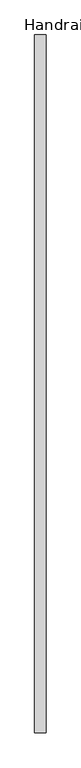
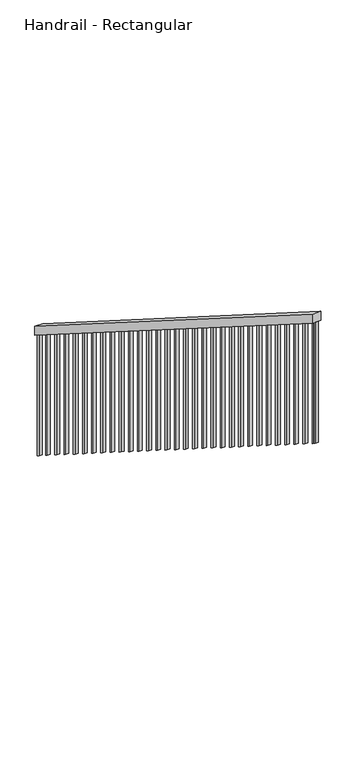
"""IFC4 building model written with IfcOpenShell, lengths in millimetres: railing geometry, Handrail - Rectangular."""

from ifc_helpers import new_model, si_unit, frame, origin, place, context, project, spatial, polyline, outline, extrude, source, transform, mapped, element, save


def handrail_rectangular_e01e2a21(model_context):
    return source(origin(), model_context, "Body", "SweptSolid", [
        extrude(outline(polyline([(29625.2325698, 914.4), (29625.2325698, 854.2661363), (26551.8305304, 2801.0532331), (26551.8305304, 2861.1870968), (29625.2325698, 914.4)])), frame((-9931.4851755, 0.0, 0.0), z_axis=(1.0, 0.0, 0.0), x_axis=(0.0, 1.0, 0.0)), (0.0, 0.0, 1.0), 50.8),
        extrude(outline(polyline([(26567.7075698, 2790.9961811), (26586.7575698, 2778.9293189), (26586.7575698, 1962.4070186), (26567.7075698, 1974.4738808), (26567.7075698, 2790.9961811)])), frame((-9915.6101755, 0.0, 0.0), z_axis=(1.0, 0.0, 0.0), x_axis=(0.0, 1.0, 0.0)), (0.0, 0.0, 1.0), 19.05),
        extrude(outline(polyline([(26669.3075698, 2726.6396256), (26688.3575698, 2714.5727634), (26688.3575698, 1898.0504631), (26669.3075698, 1910.1173253), (26669.3075698, 2726.6396256)])), frame((-9915.6101755, 0.0, 0.0), z_axis=(1.0, 0.0, 0.0), x_axis=(0.0, 1.0, 0.0)), (0.0, 0.0, 1.0), 19.05),
        extrude(outline(polyline([(26770.9075698, 2662.28307), (26789.9575698, 2650.2162079), (26789.9575698, 1833.6939076), (26770.9075698, 1845.7607697), (26770.9075698, 2662.28307)])), frame((-9915.6101755, 0.0, 0.0), z_axis=(1.0, 0.0, 0.0), x_axis=(0.0, 1.0, 0.0)), (0.0, 0.0, 1.0), 19.05),
        extrude(outline(polyline([(26872.5075698, 2597.9265145), (26891.5575698, 2585.8596523), (26891.5575698, 1769.337352), (26872.5075698, 1781.4042142), (26872.5075698, 2597.9265145)])), frame((-9915.6101755, 0.0, 0.0), z_axis=(1.0, 0.0, 0.0), x_axis=(0.0, 1.0, 0.0)), (0.0, 0.0, 1.0), 19.05),
        extrude(outline(polyline([(26974.1075698, 2533.569959), (26993.1575698, 2521.5030968), (26993.1575698, 1704.9807965), (26974.1075698, 1717.0476587), (26974.1075698, 2533.569959)])), frame((-9915.6101755, 0.0, 0.0), z_axis=(1.0, 0.0, 0.0), x_axis=(0.0, 1.0, 0.0)), (0.0, 0.0, 1.0), 19.05),
        extrude(outline(polyline([(27075.7075698, 2469.2134034), (27094.7575698, 2457.1465413), (27094.7575698, 1640.624241), (27075.7075698, 1652.6911031), (27075.7075698, 2469.2134034)])), frame((-9915.6101755, 0.0, 0.0), z_axis=(1.0, 0.0, 0.0), x_axis=(0.0, 1.0, 0.0)), (0.0, 0.0, 1.0), 19.05),
        extrude(outline(polyline([(27177.3075698, 2404.8568479), (27196.3575698, 2392.7899857), (27196.3575698, 1576.2676854), (27177.3075698, 1588.3345476), (27177.3075698, 2404.8568479)])), frame((-9915.6101755, 0.0, 0.0), z_axis=(1.0, 0.0, 0.0), x_axis=(0.0, 1.0, 0.0)), (0.0, 0.0, 1.0), 19.05),
        extrude(outline(polyline([(27278.9075698, 2340.5002924), (27297.9575698, 2328.4334302), (27297.9575698, 1511.9111299), (27278.9075698, 1523.9779921), (27278.9075698, 2340.5002924)])), frame((-9915.6101755, 0.0, 0.0), z_axis=(1.0, 0.0, 0.0), x_axis=(0.0, 1.0, 0.0)), (0.0, 0.0, 1.0), 19.05),
        extrude(outline(polyline([(27380.5075698, 2276.1437368), (27399.5575698, 2264.0768746), (27399.5575698, 1447.5545743), (27380.5075698, 1459.6214365), (27380.5075698, 2276.1437368)])), frame((-9915.6101755, 0.0, 0.0), z_axis=(1.0, 0.0, 0.0), x_axis=(0.0, 1.0, 0.0)), (0.0, 0.0, 1.0), 19.05),
        extrude(outline(polyline([(27482.1075698, 2211.7871813), (27501.1575698, 2199.7203191), (27501.1575698, 1383.1980188), (27482.1075698, 1395.264881), (27482.1075698, 2211.7871813)])), frame((-9915.6101755, 0.0, 0.0), z_axis=(1.0, 0.0, 0.0), x_axis=(0.0, 1.0, 0.0)), (0.0, 0.0, 1.0), 19.05),
        extrude(outline(polyline([(27583.7075698, 2147.4306257), (27602.7575698, 2135.3637636), (27602.7575698, 1318.8414633), (27583.7075698, 1330.9083254), (27583.7075698, 2147.4306257)])), frame((-9915.6101755, 0.0, 0.0), z_axis=(1.0, 0.0, 0.0), x_axis=(0.0, 1.0, 0.0)), (0.0, 0.0, 1.0), 19.05),
        extrude(outline(polyline([(27685.3075698, 2083.0740702), (27704.3575698, 2071.007208), (27704.3575698, 1254.4849077), (27685.3075698, 1266.5517699), (27685.3075698, 2083.0740702)])), frame((-9915.6101755, 0.0, 0.0), z_axis=(1.0, 0.0, 0.0), x_axis=(0.0, 1.0, 0.0)), (0.0, 0.0, 1.0), 19.05),
        extrude(outline(polyline([(27786.9075698, 2018.7175147), (27805.9575698, 2006.6506525), (27805.9575698, 1190.1283522), (27786.9075698, 1202.1952144), (27786.9075698, 2018.7175147)])), frame((-9915.6101755, 0.0, 0.0), z_axis=(1.0, 0.0, 0.0), x_axis=(0.0, 1.0, 0.0)), (0.0, 0.0, 1.0), 19.05),
        extrude(outline(polyline([(27888.5075698, 1954.3609591), (27907.5575698, 1942.294097), (27907.5575698, 1125.7717967), (27888.5075698, 1137.8386588), (27888.5075698, 1954.3609591)])), frame((-9915.6101755, 0.0, 0.0), z_axis=(1.0, 0.0, 0.0), x_axis=(0.0, 1.0, 0.0)), (0.0, 0.0, 1.0), 19.05),
        extrude(outline(polyline([(27990.1075698, 1890.0044036), (28009.1575698, 1877.9375414), (28009.1575698, 1061.4152411), (27990.1075698, 1073.4821033), (27990.1075698, 1890.0044036)])), frame((-9915.6101755, 0.0, 0.0), z_axis=(1.0, 0.0, 0.0), x_axis=(0.0, 1.0, 0.0)), (0.0, 0.0, 1.0), 19.05),
        extrude(outline(polyline([(28091.7075698, 1825.6478481), (28110.7575698, 1813.5809859), (28110.7575698, 997.0586856), (28091.7075698, 1009.1255478), (28091.7075698, 1825.6478481)])), frame((-9915.6101755, 0.0, 0.0), z_axis=(1.0, 0.0, 0.0), x_axis=(0.0, 1.0, 0.0)), (0.0, 0.0, 1.0), 19.05),
        extrude(outline(polyline([(28193.3075698, 1761.2912925), (28212.3575698, 1749.2244304), (28212.3575698, 932.7021301), (28193.3075698, 944.7689922), (28193.3075698, 1761.2912925)])), frame((-9915.6101755, 0.0, 0.0), z_axis=(1.0, 0.0, 0.0), x_axis=(0.0, 1.0, 0.0)), (0.0, 0.0, 1.0), 19.05),
        extrude(outline(polyline([(28294.9075698, 1696.934737), (28313.9575698, 1684.8678748), (28313.9575698, 868.3455745), (28294.9075698, 880.4124367), (28294.9075698, 1696.934737)])), frame((-9915.6101755, 0.0, 0.0), z_axis=(1.0, 0.0, 0.0), x_axis=(0.0, 1.0, 0.0)), (0.0, 0.0, 1.0), 19.05),
        extrude(outline(polyline([(28396.5075698, 1632.5781815), (28415.5575698, 1620.5113193), (28415.5575698, 803.989019), (28396.5075698, 816.0558812), (28396.5075698, 1632.5781815)])), frame((-9915.6101755, 0.0, 0.0), z_axis=(1.0, 0.0, 0.0), x_axis=(0.0, 1.0, 0.0)), (0.0, 0.0, 1.0), 19.05),
        extrude(outline(polyline([(28498.1075698, 1568.2216259), (28517.1575698, 1556.1547638), (28517.1575698, 739.6324635), (28498.1075698, 751.6993256), (28498.1075698, 1568.2216259)])), frame((-9915.6101755, 0.0, 0.0), z_axis=(1.0, 0.0, 0.0), x_axis=(0.0, 1.0, 0.0)), (0.0, 0.0, 1.0), 19.05),
        extrude(outline(polyline([(28599.7075698, 1503.8650704), (28618.7575698, 1491.7982082), (28618.7575698, 675.2759079), (28599.7075698, 687.3427701), (28599.7075698, 1503.8650704)])), frame((-9915.6101755, 0.0, 0.0), z_axis=(1.0, 0.0, 0.0), x_axis=(0.0, 1.0, 0.0)), (0.0, 0.0, 1.0), 19.05),
        extrude(outline(polyline([(28701.3075698, 1439.5085149), (28720.3575698, 1427.4416527), (28720.3575698, 610.9193524), (28701.3075698, 622.9862146), (28701.3075698, 1439.5085149)])), frame((-9915.6101755, 0.0, 0.0), z_axis=(1.0, 0.0, 0.0), x_axis=(0.0, 1.0, 0.0)), (0.0, 0.0, 1.0), 19.05),
        extrude(outline(polyline([(28802.9075698, 1375.1519593), (28821.9575698, 1363.0850972), (28821.9575698, 546.5627969), (28802.9075698, 558.629659), (28802.9075698, 1375.1519593)])), frame((-9915.6101755, 0.0, 0.0), z_axis=(1.0, 0.0, 0.0), x_axis=(0.0, 1.0, 0.0)), (0.0, 0.0, 1.0), 19.05),
        extrude(outline(polyline([(28904.5075698, 1310.7954038), (28923.5575698, 1298.7285416), (28923.5575698, 482.2062413), (28904.5075698, 494.2731035), (28904.5075698, 1310.7954038)])), frame((-9915.6101755, 0.0, 0.0), z_axis=(1.0, 0.0, 0.0), x_axis=(0.0, 1.0, 0.0)), (0.0, 0.0, 1.0), 19.05),
        extrude(outline(polyline([(29006.1075698, 1246.4388483), (29025.1575698, 1234.3719861), (29025.1575698, 417.8496858), (29006.1075698, 429.916548), (29006.1075698, 1246.4388483)])), frame((-9915.6101755, 0.0, 0.0), z_axis=(1.0, 0.0, 0.0), x_axis=(0.0, 1.0, 0.0)), (0.0, 0.0, 1.0), 19.05),
        extrude(outline(polyline([(29107.7075698, 1182.0822927), (29126.7575698, 1170.0154306), (29126.7575698, 353.4931303), (29107.7075698, 365.5599924), (29107.7075698, 1182.0822927)])), frame((-9915.6101755, 0.0, 0.0), z_axis=(1.0, 0.0, 0.0), x_axis=(0.0, 1.0, 0.0)), (0.0, 0.0, 1.0), 19.05),
        extrude(outline(polyline([(29209.3075698, 1117.7257372), (29228.3575698, 1105.658875), (29228.3575698, 289.1365747), (29209.3075698, 301.2034369), (29209.3075698, 1117.7257372)])), frame((-9915.6101755, 0.0, 0.0), z_axis=(1.0, 0.0, 0.0), x_axis=(0.0, 1.0, 0.0)), (0.0, 0.0, 1.0), 19.05),
        extrude(outline(polyline([(29310.9075698, 1053.3691817), (29329.9575698, 1041.3023195), (29329.9575698, 224.7800192), (29310.9075698, 236.8468814), (29310.9075698, 1053.3691817)])), frame((-9915.6101755, 0.0, 0.0), z_axis=(1.0, 0.0, 0.0), x_axis=(0.0, 1.0, 0.0)), (0.0, 0.0, 1.0), 19.05),
        extrude(outline(polyline([(29412.5075698, 989.0126261), (29431.5575698, 976.945764), (29431.5575698, 160.4234637), (29412.5075698, 172.4903258), (29412.5075698, 989.0126261)])), frame((-9915.6101755, 0.0, 0.0), z_axis=(1.0, 0.0, 0.0), x_axis=(0.0, 1.0, 0.0)), (0.0, 0.0, 1.0), 19.05),
        extrude(outline(polyline([(29514.1075698, 924.6560706), (29533.1575698, 912.5892084), (29533.1575698, 96.0669081), (29514.1075698, 108.1337703), (29514.1075698, 924.6560706)])), frame((-9915.6101755, 0.0, 0.0), z_axis=(1.0, 0.0, 0.0), x_axis=(0.0, 1.0, 0.0)), (0.0, 0.0, 1.0), 19.05),
        extrude(outline(polyline([(26551.8305304, 2801.0531848), (26570.8805304, 2788.9863226), (26570.8805304, 1972.4640223), (26551.8305304, 1984.5308845), (26551.8305304, 2801.0531848)])), frame((-9915.6101755, 0.0, 0.0), z_axis=(1.0, 0.0, 0.0), x_axis=(0.0, 1.0, 0.0)), (0.0, 0.0, 1.0), 19.05),
        extrude(outline(polyline([(29606.1825698, 866.3329421), (29625.2325698, 854.26608), (29625.2325698, 37.7437797), (29606.1825698, 49.8106418), (29606.1825698, 866.3329421)])), frame((-9915.6101755, 0.0, 0.0), z_axis=(1.0, 0.0, 0.0), x_axis=(0.0, 1.0, 0.0)), (0.0, 0.0, 1.0), 19.05),
    ])


if __name__ == "__main__":
    model = new_model("IFC4")
    model_context = context("Model", 3, world=origin())
    ifc_project = project(units=[si_unit("LENGTHUNIT", "METRE", prefix="MILLI")], contexts=[model_context])
    site = spatial("IfcSite", under=ifc_project)
    building = spatial("IfcBuilding", under=site)
    placement = place(None, origin())
    handrail_rectangular_shape = handrail_rectangular_e01e2a21(model_context)
    element("IfcRailing", 1, ObjectType="Handrail - Rectangular", at=placement, inside=building, context=model_context, shape_type="MappedRepresentation", body=[
        mapped(handrail_rectangular_shape, transform((0.0, 0.0, 0.0), x_axis=(1.0, 0.0, 0.0), y_axis=(0.0, 1.0, 0.0), z_axis=(0.0, 0.0, 1.0))),
    ])
    save(model, "model.ifc")
